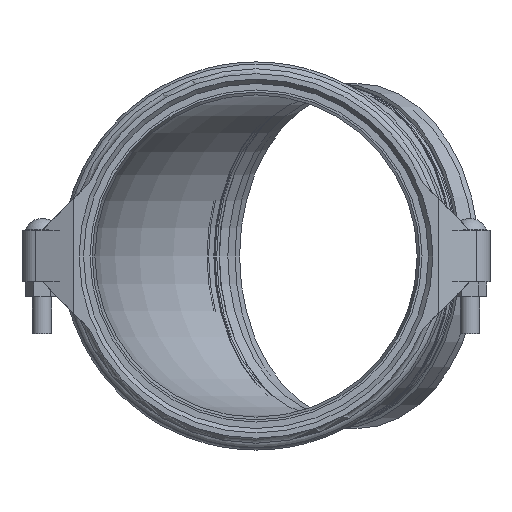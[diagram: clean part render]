
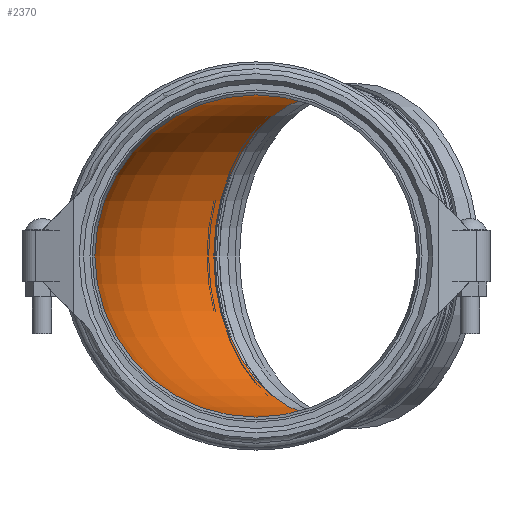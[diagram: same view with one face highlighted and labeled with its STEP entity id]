
A CAD part, left-side view. The second image highlights one B-rep face of the part: STEP entity #2370.
In plain terms, the highlighted toroidal (fillet/blend) face has major radius 366.7 mm and minor radius 237.236 mm.
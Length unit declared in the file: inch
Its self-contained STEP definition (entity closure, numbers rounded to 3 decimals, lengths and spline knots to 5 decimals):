
#76=TOROIDAL_SURFACE('',#2712,14.437,9.34);
#528=FACE_OUTER_BOUND('',#665,.T.);
#665=EDGE_LOOP('',(#1967,#1968,#1969,#1970,#1971));
#807=CIRCLE('',#2713,9.34);
#808=CIRCLE('',#2714,5.097);
#809=CIRCLE('',#2715,9.34);
#810=CIRCLE('',#2716,9.34);
#1050=VERTEX_POINT('',#4492);
#1051=VERTEX_POINT('',#4494);
#1052=VERTEX_POINT('',#4496);
#1366=EDGE_CURVE('',#1050,#1050,#807,.T.);
#1367=EDGE_CURVE('',#1050,#1051,#808,.T.);
#1368=EDGE_CURVE('',#1051,#1052,#809,.T.);
#1369=EDGE_CURVE('',#1052,#1051,#810,.T.);
#1967=ORIENTED_EDGE('',*,*,#1366,.F.);
#1968=ORIENTED_EDGE('',*,*,#1367,.T.);
#1969=ORIENTED_EDGE('',*,*,#1368,.T.);
#1970=ORIENTED_EDGE('',*,*,#1369,.T.);
#1971=ORIENTED_EDGE('',*,*,#1367,.F.);
#2370=ADVANCED_FACE('',(#528),#76,.F.);
#2712=AXIS2_PLACEMENT_3D('',#4491,#3365,#3366);
#2713=AXIS2_PLACEMENT_3D('',#4493,#3367,#3368);
#2714=AXIS2_PLACEMENT_3D('',#4495,#3369,#3370);
#2715=AXIS2_PLACEMENT_3D('',#4497,#3371,#3372);
#2716=AXIS2_PLACEMENT_3D('',#4498,#3373,#3374);
#3365=DIRECTION('center_axis',(0.,0.,-1.));
#3366=DIRECTION('ref_axis',(-1.,0.,0.));
#3367=DIRECTION('center_axis',(0.,1.,0.));
#3368=DIRECTION('ref_axis',(-1.,0.,0.));
#3369=DIRECTION('center_axis',(0.,0.,-1.));
#3370=DIRECTION('ref_axis',(-1.,0.,0.));
#3371=DIRECTION('center_axis',(0.707,0.707,0.));
#3372=DIRECTION('ref_axis',(-0.707,0.707,0.));
#3373=DIRECTION('center_axis',(0.707,0.707,0.));
#3374=DIRECTION('ref_axis',(-0.707,0.707,0.));
#4491=CARTESIAN_POINT('Origin',(14.437,-5.98,0.));
#4492=CARTESIAN_POINT('',(9.34,-5.98,0.));
#4493=CARTESIAN_POINT('Origin',(0.,-5.98,0.));
#4494=CARTESIAN_POINT('',(10.83288,-2.37588,0.));
#4495=CARTESIAN_POINT('Origin',(14.437,-5.98,0.));
#4496=CARTESIAN_POINT('',(4.2285,4.2285,9.34));
#4497=CARTESIAN_POINT('Origin',(4.2285,4.2285,0.));
#4498=CARTESIAN_POINT('Origin',(4.2285,4.2285,0.));
